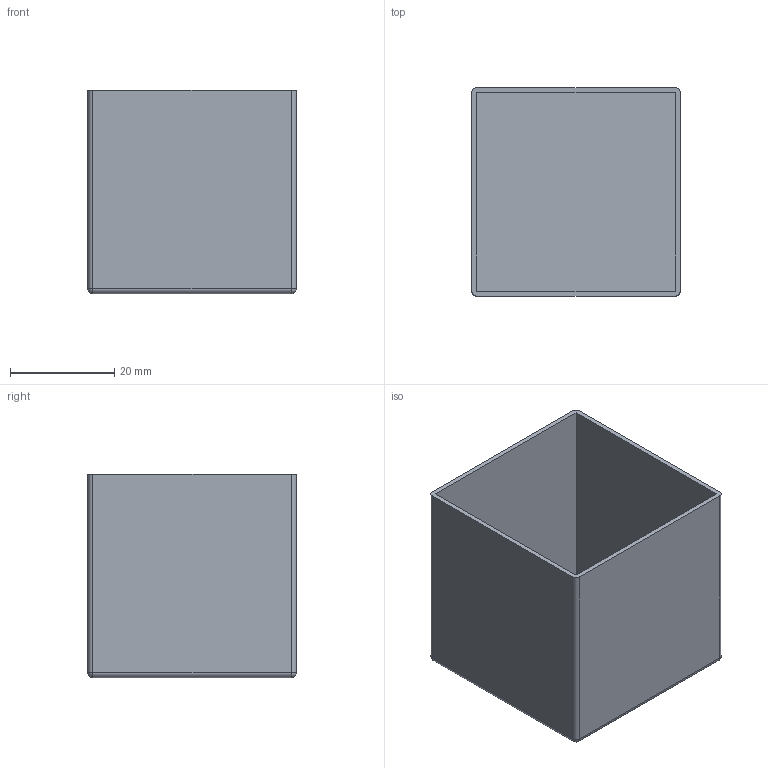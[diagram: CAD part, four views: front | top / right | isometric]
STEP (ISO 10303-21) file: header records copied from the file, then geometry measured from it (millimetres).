
FILE_DESCRIPTION(('Open CASCADE Model'),'2;1');
FILE_NAME('Open CASCADE Shape Model','2026-10-26T07:39:30',('Author'),( 'Open CASCADE'),'Open CASCADE STEP processor 7.9','Open CASCADE 7.9' ,'Unknown');
FILE_SCHEMA(('AUTOMOTIVE_DESIGN { 1 0 10303 214 1 1 1 1 }'));
Length unit declared in the file: millimetre
Products named in the file (1): Open CASCADE STEP translator 7.9 1
Bounding box: 40 x 40 x 39.05 mm (x, y, z)
Volume: 7129.6 mm3; surface area: 15122.1 mm2
Topology: 1 solids, 1 shells, 23 faces, 48 edges, 28 vertices
Faces by surface type: plane 11, cylinder 8, sphere 4
Entity records: 1330 total; most frequent: CARTESIAN_POINT 312, DIRECTION 198, LINE 116, VECTOR 116, ORIENTED_EDGE 96, PCURVE 96, DEFINITIONAL_REPRESENTATION 96, EDGE_CURVE 48
